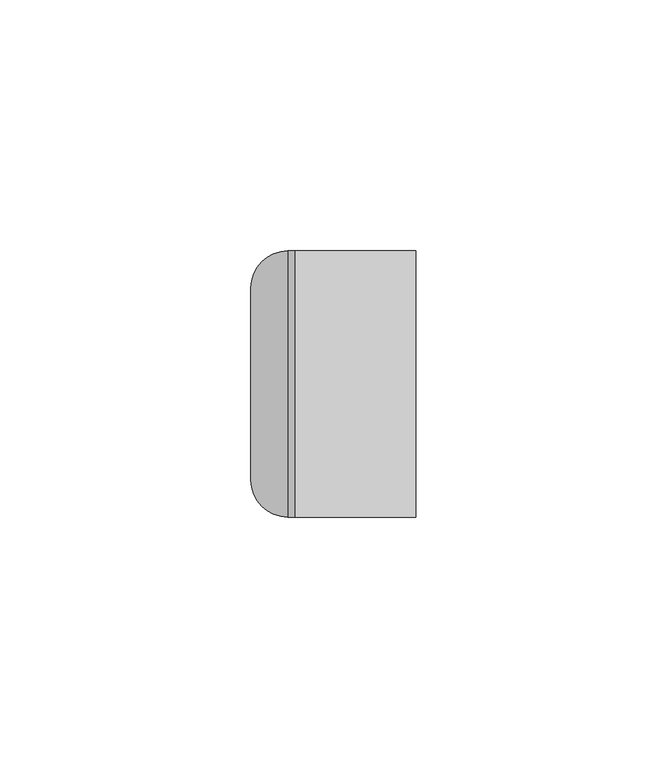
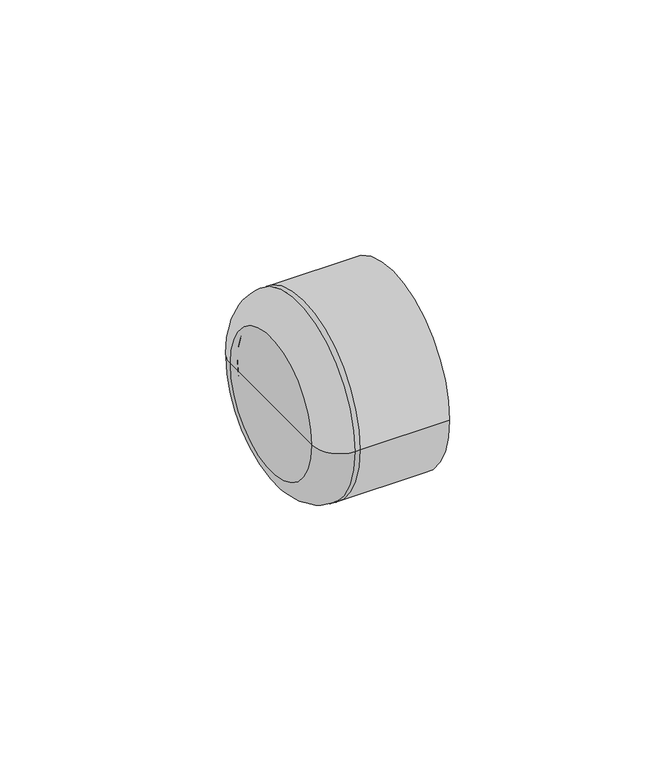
"""IFC4 building model written with IfcOpenShell, lengths in millimetres: pipe fitting geometry, 09_Заглушка : Белый цвет."""

from ifc_helpers import new_model, si_unit, point, frame, origin, place, context, project, spatial, polyline, circle_curve, ellipse_curve, trimmed, source, transform, mapped, element, save
from ifc_brep_helpers import plane_surface, cylinder_surface, revolved_surface, advanced_brep


def pipe_fitting_a1e15368(model_context):
    return source(origin(), model_context, "Body", "AdvancedBrep", [
        advanced_brep(
        [(24.0, -26.5, 0.0), (24.0, 26.5, 0.0), (24.0, 20.0, 0.0), (24.0, -20.0, 0.0), (0.0, -26.5, 0.0), (0.0, 26.5, 0.0), (0.0, 20.0, 0.0), (0.0, -20.0, 0.0), (-8.84, -19.1721604, 0.0), (-8.84, 19.1721604, 0.0), (-1.5121604, 26.5, 0.0), (-1.5121604, -26.5, 0.0), (-8.84, 0.0, 0.0), (-6.84, -18.63, 0.0), (-6.84, 18.63, 0.0), (-6.84, 0.0, 0.0), (-5.47, -20.0, 0.0), (-5.47, 20.0, 0.0)],
        [
            (0, 1, circle_curve(frame((24.0, 0.0, 0.0), z_axis=(1.0, 0.0, 0.0), x_axis=(0.0, 1.0, 0.0)), 26.5)),
            (1, 0, circle_curve(frame((24.0, 0.0, 0.0), z_axis=(1.0, 0.0, 0.0), x_axis=(0.0, 1.0, 0.0)), 26.5)),
            (2, 3, circle_curve(frame((24.0, 0.0, 0.0), z_axis=(-1.0, 0.0, 0.0), x_axis=(0.0, 1.0, 0.0)), 20.0)),
            (3, 2, circle_curve(frame((24.0, 0.0, 0.0), z_axis=(-1.0, 0.0, 0.0), x_axis=(0.0, 1.0, 0.0)), 20.0)),
            (0, 4),
            (4, 5, circle_curve(frame((0.0, 0.0, 0.0), z_axis=(1.0, 0.0, 0.0), x_axis=(0.0, 1.0, 0.0)), 26.5)),
            (5, 1),
            (5, 4, circle_curve(frame((0.0, 0.0, 0.0), z_axis=(1.0, 0.0, 0.0), x_axis=(0.0, 1.0, 0.0)), 26.5)),
            (2, 6),
            (6, 7, circle_curve(frame((0.0, 0.0, 0.0), z_axis=(-1.0, 0.0, 0.0), x_axis=(0.0, 1.0, 0.0)), 20.0)),
            (7, 3),
            (7, 6, circle_curve(frame((0.0, 0.0, 0.0), z_axis=(-1.0, 0.0, 0.0), x_axis=(0.0, 1.0, 0.0)), 20.0)),
            (8, 9, circle_curve(frame((-8.84, 0.0, 0.0), z_axis=(1.0, 0.0, 0.0), x_axis=(0.0, 1.0, 0.0)), 19.1721604)),
            (9, 10, circle_curve(frame((-1.5121604, 19.1721604, 0.0), z_axis=(0.0, 0.0, -1.0), x_axis=(1.0, 0.0, 0.0)), 7.3278396)),
            (10, 11, circle_curve(frame((-1.5121604, 0.0, 0.0), z_axis=(-1.0, 0.0, 0.0), x_axis=(0.0, 1.0, 0.0)), 26.5)),
            (11, 8, circle_curve(frame((-1.5121604, -19.1721604, 0.0), z_axis=(0.0, 0.0, -1.0), x_axis=(1.0, 0.0, 0.0)), 7.3278396)),
            (9, 8, circle_curve(frame((-8.84, 0.0, 0.0), z_axis=(1.0, 0.0, 0.0), x_axis=(0.0, 1.0, 0.0)), 19.1721604)),
            (11, 10, circle_curve(frame((-1.5121604, 0.0, 0.0), z_axis=(-1.0, 0.0, 0.0), x_axis=(0.0, 1.0, 0.0)), 26.5)),
            (8, 12),
            (12, 9),
            (13, 14, circle_curve(frame((-6.84, 0.0, 0.0), z_axis=(1.0, 0.0, 0.0), x_axis=(0.0, 1.0, 0.0)), 18.63)),
            (14, 15),
            (15, 13),
            (14, 13, circle_curve(frame((-6.84, 0.0, 0.0), z_axis=(1.0, 0.0, 0.0), x_axis=(0.0, 1.0, 0.0)), 18.63)),
            (13, 16, circle_curve(frame((-5.47, -18.63, 0.0), z_axis=(0.0, 0.0, 1.0), x_axis=(1.0, 0.0, 0.0)), 1.37)),
            (16, 17, circle_curve(frame((-5.47, 0.0, 0.0), z_axis=(1.0, 0.0, 0.0), x_axis=(0.0, 1.0, 0.0)), 20.0)),
            (17, 14, circle_curve(frame((-5.47, 18.63, 0.0), z_axis=(0.0, 0.0, 1.0), x_axis=(1.0, 0.0, 0.0)), 1.37)),
            (17, 16, circle_curve(frame((-5.47, 0.0, 0.0), z_axis=(1.0, 0.0, 0.0), x_axis=(0.0, 1.0, 0.0)), 20.0)),
            (16, 7),
            (6, 17),
            (10, 5),
            (4, 11),
        ],
        [
            plane_surface(frame((24.0, 26.5, 0.0), z_axis=(1.0, 0.0, 0.0), x_axis=(0.0, 0.0, 1.0))),
            cylinder_surface(frame((0.0, 0.0, 0.0), z_axis=(1.0, 0.0, 0.0), x_axis=(0.0, 1.0, 0.0)), 26.5),
            revolved_surface(polyline([(24.0, 20.0, 0.0), (0.0, 20.0, 0.0)]), (0.0, 0.0, 0.0), (1.0, 0.0, 0.0)),
            revolved_surface(trimmed(ellipse_curve(frame((-1.5121604, 19.1721604, 0.0), z_axis=(0.0, 0.0, 1.0), x_axis=(1.0, 0.0, 0.0)), 7.3278396, 7.3278396), [point((-1.5121604, 26.5, 0.0))], [point((-8.84, 19.1721604, 0.0))], True, "CARTESIAN"), (-8.84, 0.0, 0.0), (-1.0, 0.0, 0.0)),
            plane_surface(frame((-8.84, 0.0, 0.0), z_axis=(-1.0, 0.0, 0.0), x_axis=(0.0, 1.0, 0.0))),
            plane_surface(frame((-6.84, 0.0, 0.0), z_axis=(1.0, 0.0, 0.0), x_axis=(0.0, 1.0, 0.0))),
            revolved_surface(trimmed(ellipse_curve(frame((-5.47, 18.63, 0.0), z_axis=(0.0, 0.0, -1.0), x_axis=(1.0, 0.0, 0.0)), 1.37, 1.37), [point((-6.84, 18.63, 0.0))], [point((-5.47, 20.0, 0.0))], True, "CARTESIAN"), (-8.84, 0.0, 0.0), (-1.0, 0.0, 0.0)),
            revolved_surface(polyline([(-5.47, 20.0, 0.0), (0.0, 20.0, 0.0)]), (-8.84, 0.0, 0.0), (-1.0, 0.0, 0.0)),
            cylinder_surface(frame((-8.84, 0.0, 0.0), z_axis=(-1.0, 0.0, 0.0), x_axis=(0.0, 1.0, 0.0)), 26.5),
        ],
        [
            (0, [[1, 2], [3, 4]]),
            (1, [[-1, 5, 6, 7]]),
            (1, [[-2, -7, 8, -5]]),
            (2, [[9, 10, 11, -3]]),
            (2, [[-9, -4, -11, 12]]),
            (3, [[13, 14, 15, 16]]),
            (3, [[-14, 17, -16, 18]]),
            (4, [[-13, 19, 20]]),
            (4, [[-17, -20, -19]]),
            (5, [[21, 22, 23]]),
            (5, [[-22, 24, -23]]),
            (6, [[-21, 25, 26, 27]]),
            (6, [[-24, -27, 28, -25]]),
            (7, [[-26, 29, -10, 30]]),
            (7, [[-28, -30, -12, -29]]),
            (8, [[-15, 31, -6, 32]]),
            (8, [[-18, -32, -8, -31]]),
        ],
    ),
    ])


if __name__ == "__main__":
    model = new_model("IFC4")
    model_context = context("Model", 3, world=origin())
    ifc_project = project(units=[si_unit("LENGTHUNIT", "METRE", prefix="MILLI")], contexts=[model_context])
    site = spatial("IfcSite", under=ifc_project)
    building = spatial("IfcBuilding", under=site)
    placement = place(None, origin())
    pipe_fitting_shape = pipe_fitting_a1e15368(model_context)
    element("IfcPipeFitting", 1, ObjectType="09_Заглушка : Белый цвет", at=placement, inside=building, context=model_context, shape_type="MappedRepresentation", body=[
        mapped(pipe_fitting_shape, transform((0.0, 0.0, 0.0), x_axis=(1.0, 0.0, 0.0), y_axis=(0.0, 1.0, 0.0), z_axis=(0.0, 0.0, 1.0))),
    ])
    save(model, "model.ifc")
